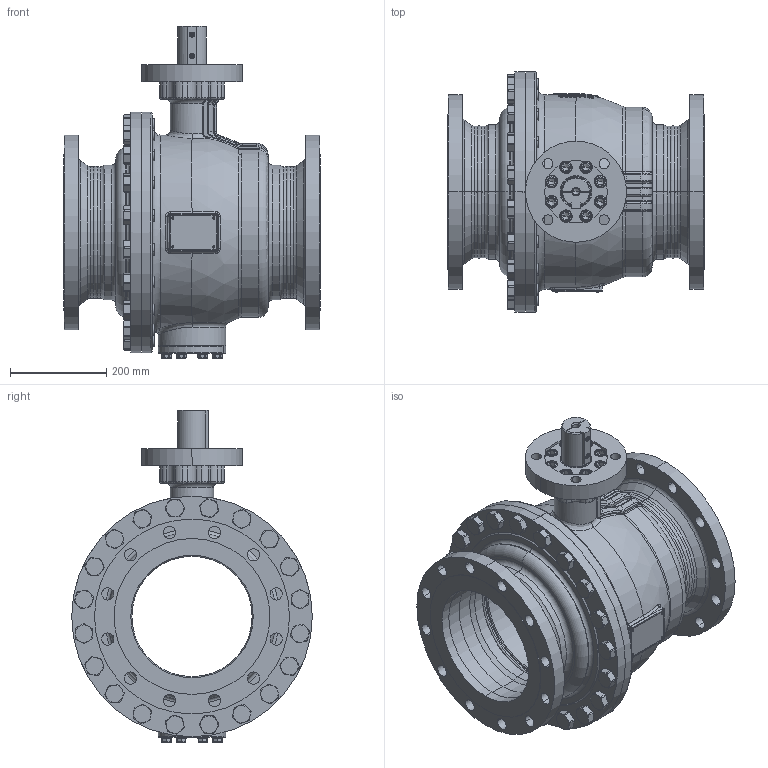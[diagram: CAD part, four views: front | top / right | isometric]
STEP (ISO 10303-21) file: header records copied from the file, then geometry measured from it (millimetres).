
FILE_DESCRIPTION((''),'2;1');
FILE_NAME('KHI-F_250_CL150-F16-P_SW0001','2026-02-05T14:07:47',('fischerkl'),('KLINGER'),'CREO PARAMETRIC BY PTC INC, 2023014','CREO PARAMETRIC BY PTC INC, 2023014','');
FILE_SCHEMA(('CONFIG_CONTROL_DESIGN'));
Products named in the file (1): KHI-F_250_CL150-F16-P_SW0001
Bounding box: 533 x 500 x 689.8 mm (x, y, z)
Volume: 22310057.6 mm3; surface area: 3346191.7 mm2
Topology: 1 solids, 4 shells, 3277 faces, 8305 edges, 5174 vertices
Faces by surface type: plane 1683, cylinder 768, cone 387, torus 312, bspline 97, sphere 30
Entity records: 134218 total; most frequent: CARTESIAN_POINT 56234, ORIENTED_EDGE 16550, DIRECTION 16034, EDGE_CURVE 8275, AXIS2_PLACEMENT_3D 6057, VERTEX_POINT 5174, VECTOR 3920, LINE 3920
